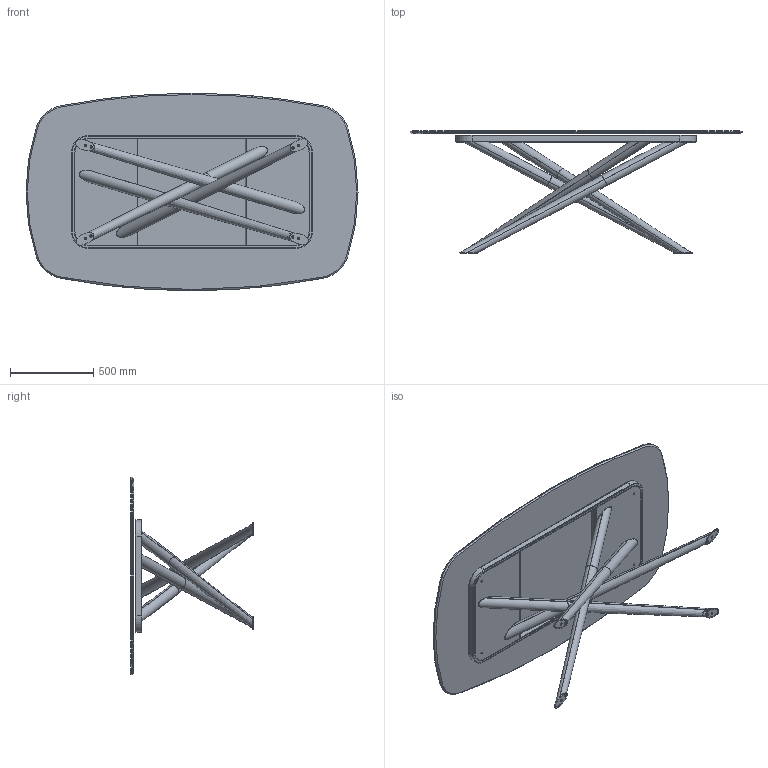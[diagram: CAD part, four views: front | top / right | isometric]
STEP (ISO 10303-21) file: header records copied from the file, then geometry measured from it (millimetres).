
FILE_DESCRIPTION (( 'STEP AP203' ), '1' );
FILE_NAME ('BA40C.STEP', '2024-08-08T06:22:05', ( '' ), ( '' ), 'SwSTEP 2.0', 'SolidWorks 2022', '' );
FILE_SCHEMA (( 'CONFIG_CONTROL_DESIGN' ));
Length unit declared in the file: millimetre
Products named in the file (8): BAB100000_01-00-Gambe saldate BALY 240_Default<A macchina>; BAB100000_03-00-Telaio BALY L240_Default<A macchina>; BA40C; K4XCMXX-00-Piani Sagomati in ceramica_2000 x 1190; M6xXXmm_HEX_M6x30mm HEX; BAB100000-00-BALY BASE GREZZA L240 rettangolare; TR Fastenings Ltd-M6_M6; BAB100000_02-00-piede per baly 240
Assembly tree (18 placements, depth 3):
  BA40C
    K4XCMXX-00-Piani Sagomati in ceramica_2000 x 1190
    BAB100000-00-BALY BASE GREZZA L240 rettangolare
      BAB100000_01-00-Gambe saldate BALY 240_Default<A macchina>
      BAB100000_03-00-Telaio BALY L240_Default<A macchina>
      BAB100000_02-00-piede per baly 240  x4
      TR Fastenings Ltd-M6_M6  x2
      M6xXXmm_HEX_M6x30mm HEX  x8
Bounding box: 2000 x 735 x 1190 mm (x, y, z)
Volume: 40016186.4 mm3; surface area: 12890178.7 mm2
Topology: 28 solids, 28 shells, 633 faces, 1309 edges, 726 vertices
Faces by surface type: plane 288, cylinder 182, cone 97, torus 48, bspline 18
Entity records: 10389 total; most frequent: CARTESIAN_POINT 1789, DIRECTION 1689, ORIENTED_EDGE 1454, EDGE_CURVE 727, AXIS2_PLACEMENT_3D 661, VERTEX_POINT 417, EDGE_LOOP 382, LINE 367
